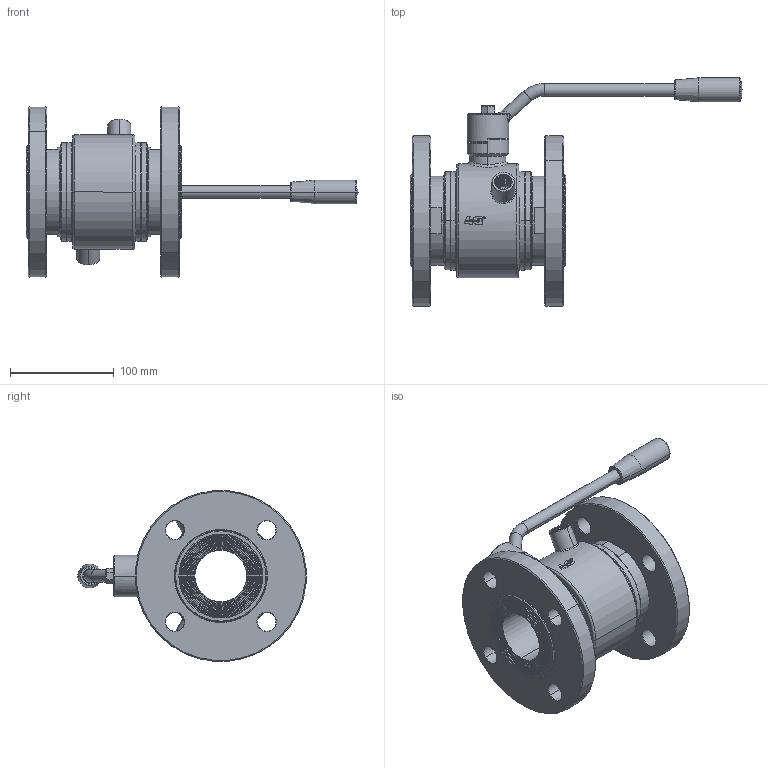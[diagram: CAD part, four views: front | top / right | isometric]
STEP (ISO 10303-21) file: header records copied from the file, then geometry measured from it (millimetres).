
FILE_DESCRIPTION((''),'2;1');
FILE_NAME('130150C63810','2026-04-30T16:12:08',('tecnico2'),('CDM Tecnoconsulting'),'CREO PARAMETRIC BY PTC INC, 2024063','CREO PARAMETRIC BY PTC INC, 2024063','');
FILE_SCHEMA(('CONFIG_CONTROL_DESIGN','SHAPE_APPEARANCE_LAYERS_GROUPS'));
Products named in the file (1): 130150C63810
Bounding box: 320 x 219.94 x 164.37 mm (x, y, z)
Volume: 1374966 mm3; surface area: 262502.1 mm2
Topology: 2 solids, 2 shells, 1391 faces, 3730 edges, 2406 vertices
Faces by surface type: plane 617, cylinder 242, extrusion 223, cone 141, bspline 82, torus 72, sphere 14
Entity records: 115523 total; most frequent: CARTESIAN_POINT 68471, ORIENTED_EDGE 7424, DIRECTION 5790, PRESENTATION_STYLE_ASSIGNMENT 4140, STYLED_ITEM 3769, CURVE_STYLE 3767, EDGE_CURVE 3712, VERTEX_POINT 2406
